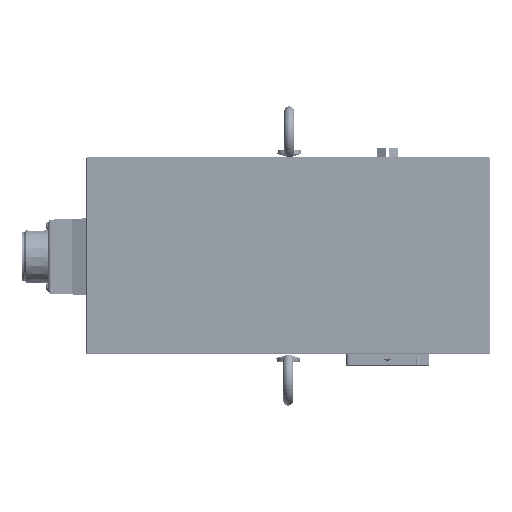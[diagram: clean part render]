
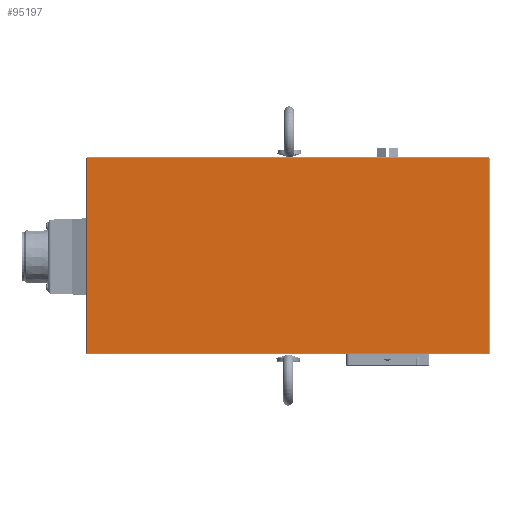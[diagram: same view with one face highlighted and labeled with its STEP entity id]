
A CAD part, top view. The second image highlights one B-rep face of the part: STEP entity #95197.
In plain terms, the highlighted planar face has unit normal (0, 0, 1).
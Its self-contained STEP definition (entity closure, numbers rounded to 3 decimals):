
#95158=CARTESIAN_POINT('',(-60.,62.5,418.));
#95159=DIRECTION('',(0.,1.,0.));
#95160=DIRECTION('',(0.,-0.,1.));
#95161=AXIS2_PLACEMENT_3D('',#95158,#95160,#95159);
#95162=PLANE('',#95161);
#95163=CARTESIAN_POINT('',(-181.5,-59.,418.));
#95164=VERTEX_POINT('',#95163);
#95165=CARTESIAN_POINT('',(61.5,-59.,418.));
#95166=VERTEX_POINT('',#95165);
#95167=CARTESIAN_POINT('',(-181.5,-59.,418.));
#95168=DIRECTION('',(1.,0.,0.));
#95169=VECTOR('',#95168,243.);
#95170=LINE('',#95167,#95169);
#95171=EDGE_CURVE('',#95164,#95166,#95170,.T.);
#95172=ORIENTED_EDGE('E5805',*,*,#95171,.T.);
#95173=CARTESIAN_POINT('',(61.5,59.,418.));
#95174=VERTEX_POINT('',#95173);
#95175=CARTESIAN_POINT('',(61.5,-59.,418.));
#95176=DIRECTION('',(0.,1.,0.));
#95177=VECTOR('',#95176,118.);
#95178=LINE('',#95175,#95177);
#95179=EDGE_CURVE('',#95166,#95174,#95178,.T.);
#95180=ORIENTED_EDGE('E5806',*,*,#95179,.T.);
#95181=CARTESIAN_POINT('',(-181.5,59.,418.));
#95182=VERTEX_POINT('',#95181);
#95183=CARTESIAN_POINT('',(61.5,59.,418.));
#95184=DIRECTION('',(-1.,0.,0.));
#95185=VECTOR('',#95184,243.);
#95186=LINE('',#95183,#95185);
#95187=EDGE_CURVE('',#95174,#95182,#95186,.T.);
#95188=ORIENTED_EDGE('E5807',*,*,#95187,.T.);
#95189=CARTESIAN_POINT('',(-181.5,59.,418.));
#95190=DIRECTION('',(0.,-1.,0.));
#95191=VECTOR('',#95190,118.);
#95192=LINE('',#95189,#95191);
#95193=EDGE_CURVE('',#95182,#95164,#95192,.T.);
#95194=ORIENTED_EDGE('E5808',*,*,#95193,.T.);
#95195=EDGE_LOOP('',(#95172,#95180,#95188,#95194));
#95196=FACE_OUTER_BOUND('',#95195,.T.);
#95197=ADVANCED_FACE('F2304',(#95196),#95162,.T.);
